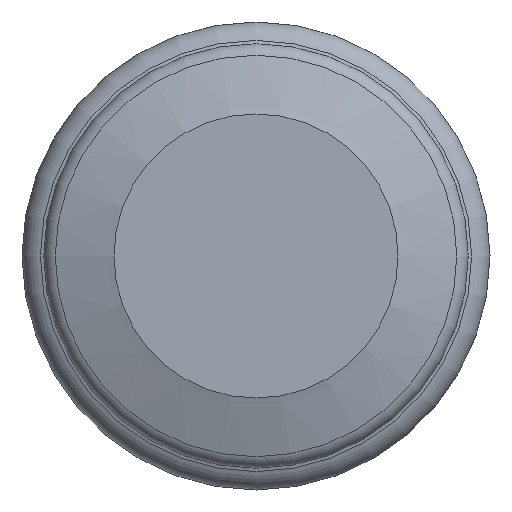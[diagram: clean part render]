
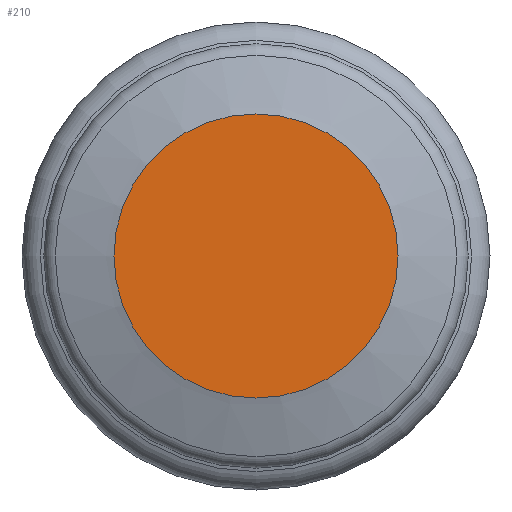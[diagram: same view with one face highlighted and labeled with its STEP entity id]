
A CAD part, front view. The second image highlights one B-rep face of the part: STEP entity #210.
In plain terms, the highlighted planar face has unit normal (0, -1, 0).
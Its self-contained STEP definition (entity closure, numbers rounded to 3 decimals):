
#30=PLANE('',#239);
#50=FACE_OUTER_BOUND('',#70,.T.);
#70=EDGE_LOOP('',(#166));
#104=CIRCLE('',#240,2.125);
#124=VERTEX_POINT('',#359);
#144=EDGE_CURVE('',#124,#124,#104,.T.);
#166=ORIENTED_EDGE('',*,*,#144,.F.);
#210=ADVANCED_FACE('',(#50),#30,.T.);
#239=AXIS2_PLACEMENT_3D('',#358,#283,#284);
#240=AXIS2_PLACEMENT_3D('',#360,#285,#286);
#283=DIRECTION('center_axis',(0.,-1.,0.));
#284=DIRECTION('ref_axis',(0.,0.,-1.));
#285=DIRECTION('center_axis',(0.,1.,0.));
#286=DIRECTION('ref_axis',(-1.,0.,0.));
#358=CARTESIAN_POINT('Origin',(-1.062,0.,0.));
#359=CARTESIAN_POINT('',(-2.125,0.,0.));
#360=CARTESIAN_POINT('Origin',(0.,0.,
0.));
